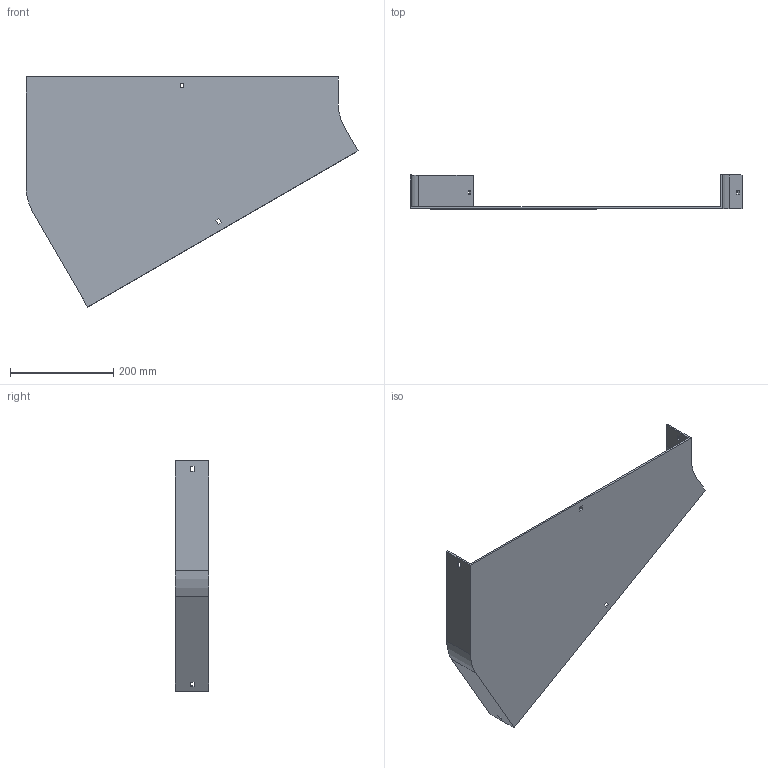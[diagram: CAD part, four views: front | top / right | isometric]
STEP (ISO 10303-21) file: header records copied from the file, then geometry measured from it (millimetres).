
FILE_DESCRIPTION (( 'STEP AP214' ), '1' );
FILE_NAME ('12B1H600.step', '2025-02-21T09:35:17', ( '' ), ( '' ), 'SwSTEP 2.0', 'SolidWorks 2023', '' );
FILE_SCHEMA (( 'AUTOMOTIVE_DESIGN' ));
Length unit declared in the file: millimetre
Products named in the file (1): 12B1H600
Bounding box: 642.4 x 65.5 x 445.3 mm (x, y, z)
Volume: 801795.3 mm3; surface area: 466157.1 mm2
Topology: 1 solids, 1 shells, 42 faces, 120 edges, 80 vertices
Faces by surface type: plane 38, cylinder 4
Entity records: 1399 total; most frequent: CARTESIAN_POINT 243, ORIENTED_EDGE 240, DIRECTION 214, EDGE_CURVE 120, LINE 112, VECTOR 112, VERTEX_POINT 80, EDGE_LOOP 54
